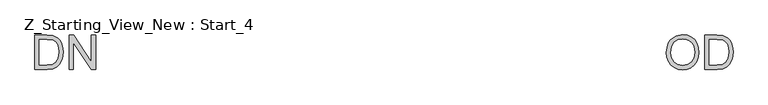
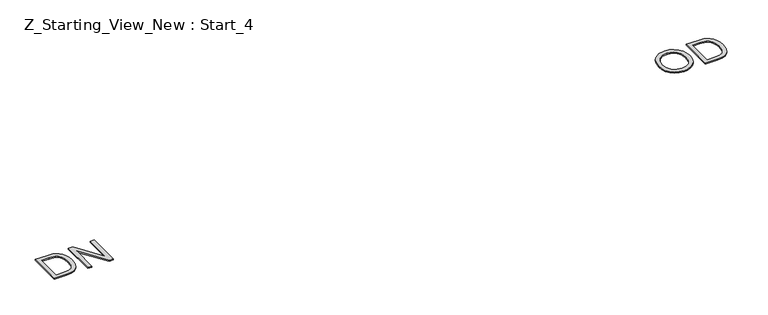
"""IFC4 building model written with IfcOpenShell, lengths in millimetres: pipe fitting geometry, Z_Starting_View_New : Start_4."""

import ifcopenshell
import ifcopenshell.guid

model = None  # the IFC model being written
_history = None  # IfcOwnerHistory: only IFC2X3 demands one
_inside = {}  # id of a spatial element -> (the spatial element, [elements in it])
_under = {}  # id of a project, library or spatial element -> (it, [spatial elements below it])
_declared = {}  # id of a project -> (the project, [libraries it declares])
_typed = {}  # id of a type object -> (the type object, [elements of that type])
_made_of = {}  # id of a material, layer set ... -> (it, [elements and type objects made of it])


def new_model(schema):
    """Start an empty IFC model of exactly this schema.

    Asked for "IFC4X3", IfcOpenShell would pick the latest addendum, in which some entities
    have other attributes; the version numbers below select the first issue.
    IFC2X3 requires an IfcOwnerHistory on every rooted entity: one is made here for all.
    """
    global model, _history
    if schema == "IFC4X3":
        model = ifcopenshell.file(schema_version=(4, 3, 0, 0))
    else:
        model = ifcopenshell.file(schema=schema)
    _inside.clear()
    _under.clear()
    _declared.clear()
    _typed.clear()
    _made_of.clear()
    _history = None
    if model.schema == "IFC2X3":
        org = make("IfcOrganization", Name="unknown")
        user = make(
            "IfcPersonAndOrganization",
            ThePerson=make("IfcPerson", FamilyName="unknown"),
            TheOrganization=org,
        )
        app = make(
            "IfcApplication",
            ApplicationDeveloper=org,
            Version="unknown",
            ApplicationFullName="unknown",
            ApplicationIdentifier="unknown",
        )
        _history = make(
            "IfcOwnerHistory",
            OwningUser=user,
            OwningApplication=app,
            ChangeAction="ADDED",
            CreationDate=0,
        )
    return model


def make(cls, **values):
    """One entity of the class cls with the attributes given. An attribute that is None is left unset."""
    return model.create_entity(
        cls, **{name: value for name, value in values.items() if value is not None}
    )


def rooted(cls, **values):
    """An entity with a GlobalId (a new one), such as an element, a storey or a relation."""
    return make(cls, GlobalId=ifcopenshell.guid.new(), OwnerHistory=_history, **values)


def si_unit(unit_type, name, prefix=None):
    """IfcSIUnit, for example si_unit("LENGTHUNIT", "METRE", prefix="MILLI")."""
    return make("IfcSIUnit", UnitType=unit_type, Prefix=prefix, Name=name)


def assignment(units):
    """IfcUnitAssignment: the units of a project."""
    return None if units is None else make("IfcUnitAssignment", Units=units)


def point(xyz):
    """IfcCartesianPoint."""
    return None if xyz is None else make("IfcCartesianPoint", Coordinates=xyz)


def direction(xyz):
    """IfcDirection."""
    return None if xyz is None else make("IfcDirection", DirectionRatios=xyz)


def frame(location, z_axis=None, x_axis=None):
    """IfcAxis2Placement3D, a coordinate frame: its origin and axes. An axis left out is left unset."""
    return make(
        "IfcAxis2Placement3D",
        Location=point(location),
        Axis=direction(z_axis),
        RefDirection=direction(x_axis),
    )


def origin():
    """The frame at (0, 0, 0) with its axes left unset."""
    return frame((0.0, 0.0, 0.0))


def origin_with_axes():
    """The frame at (0, 0, 0) with the z axis (0, 0, 1) and the x axis (1, 0, 0) written out."""
    return frame((0.0, 0.0, 0.0), z_axis=(0.0, 0.0, 1.0), x_axis=(1.0, 0.0, 0.0))


def place(relative_to, where):
    """IfcLocalPlacement: puts the frame where relative to a parent placement (None: the world)."""
    return make(
        "IfcLocalPlacement", PlacementRelTo=relative_to, RelativePlacement=where
    )


def context(
    kind, dimensions, precision=None, world=None, true_north=None, identifier=None
):
    """IfcGeometricRepresentationContext, for example the 3D "Model" context."""
    return make(
        "IfcGeometricRepresentationContext",
        ContextIdentifier=identifier,
        ContextType=kind,
        CoordinateSpaceDimension=dimensions,
        Precision=precision,
        WorldCoordinateSystem=world,
        TrueNorth=true_north,
    )


def project(units=None, contexts=None):
    """IfcProject with its units and contexts."""
    return rooted(
        "IfcProject",
        Name="project",
        RepresentationContexts=contexts,
        UnitsInContext=assignment(units),
    )


def spatial(cls, under=None, at=None, **own):
    """A site, building, storey or space (cls), placed at a placement, below another one or the project."""
    s = rooted(cls, ObjectPlacement=at, **own)
    if under is not None:
        _under.setdefault(under.id(), (under, []))[1].append(s)
    return s


def polyline(points):
    """IfcPolyline through the points."""
    return make("IfcPolyline", Points=[point(p) for p in points])


def outline(outer, holes=None, kind="AREA"):
    """IfcArbitraryClosedProfileDef: a profile drawn as a closed curve; with holes, ...WithVoids."""
    if holes is None:
        return make("IfcArbitraryClosedProfileDef", ProfileType=kind, OuterCurve=outer)
    return make(
        "IfcArbitraryProfileDefWithVoids",
        ProfileType=kind,
        OuterCurve=outer,
        InnerCurves=holes,
    )


def extrude(swept, where, along, depth):
    """IfcExtrudedAreaSolid: the profile swept, set in the frame where, extruded along a direction by depth."""
    return make(
        "IfcExtrudedAreaSolid",
        SweptArea=swept,
        Position=where,
        ExtrudedDirection=direction(along),
        Depth=depth,
    )


def shape(context_of_items, identifier, shape_type, items):
    """IfcShapeRepresentation: the items that make up one representation, for example the "Body"."""
    return make(
        "IfcShapeRepresentation",
        ContextOfItems=context_of_items,
        RepresentationIdentifier=identifier,
        RepresentationType=shape_type,
        Items=items,
    )


def source(mapping_origin, context_of_items, identifier, shape_type, items):
    """IfcRepresentationMap: a shape defined once, which mapped items show again and again."""
    return make(
        "IfcRepresentationMap",
        MappingOrigin=mapping_origin,
        MappedRepresentation=shape(context_of_items, identifier, shape_type, items),
    )


def transform(
    local_origin,
    x_axis=None,
    y_axis=None,
    z_axis=None,
    scale=None,
    scale2=None,
    scale3=None,
    uniform=True,
):
    """IfcCartesianTransformationOperator3D, or its non-uniform kind. x_axis, y_axis, z_axis: its Axis1, 2, 3."""
    if uniform:
        return make(
            "IfcCartesianTransformationOperator3D",
            Axis1=direction(x_axis),
            Axis2=direction(y_axis),
            LocalOrigin=point(local_origin),
            Scale=scale,
            Axis3=direction(z_axis),
        )
    return make(
        "IfcCartesianTransformationOperator3DnonUniform",
        Axis1=direction(x_axis),
        Axis2=direction(y_axis),
        LocalOrigin=point(local_origin),
        Scale=scale,
        Axis3=direction(z_axis),
        Scale2=scale2,
        Scale3=scale3,
    )


def mapped(mapping_source, mapping_target):
    """IfcMappedItem: shows the shape of a source again, moved by a transform."""
    return make(
        "IfcMappedItem", MappingSource=mapping_source, MappingTarget=mapping_target
    )


def made_of(thing, what):
    """Note that an element or type object is made of a material, layer set ...; save() writes the relation."""
    if what is not None:
        _made_of.setdefault(what.id(), (what, []))[1].append(thing)
    return thing


def element(
    cls,
    number,
    at=None,
    inside=None,
    cuts=None,
    type_object=None,
    material=None,
    context=None,
    identifier="Body",
    shape_type=None,
    held_by="IfcProductDefinitionShape",
    body=None,
    shapes=None,
    **own,
):
    """One element of the class cls, such as IfcWall. Its Tag is "e" and its number.

    at: its placement. inside: the storey or other place that contains it. cuts: it is an
    opening in that element (IfcRelVoidsElement). A single representation is given by context,
    identifier, shape_type and body (its items); several are given by shapes. held_by: the class
    of the entity that holds the representations. save() writes the other relations.
    """
    e = rooted(cls, Tag="e%d" % number, ObjectPlacement=at, **own)
    if body is not None:
        shapes = [shape(context, identifier, shape_type, body)]
    if shapes is not None:
        e.Representation = make(held_by, Representations=shapes)
    if inside is not None:
        _inside.setdefault(inside.id(), (inside, []))[1].append(e)
    if cuts is not None:
        rooted(
            "IfcRelVoidsElement", RelatingBuildingElement=cuts, RelatedOpeningElement=e
        )
    if type_object is not None:
        _typed.setdefault(type_object.id(), (type_object, []))[1].append(e)
    return made_of(e, material)


def aggregate(whole, parts):
    """IfcRelAggregates: a whole, such as a stair, and the parts it consists of."""
    return rooted("IfcRelAggregates", RelatingObject=whole, RelatedObjects=parts)


def save(model, path):
    """Write the relations noted so far, then the file.

    IfcRelAggregates (storeys below a building ...), IfcRelContainedInSpatialStructure (elements
    in a storey), IfcRelDefinesByType, IfcRelAssociatesMaterial and IfcRelDeclares: one each for
    every whole, place, type object, material and project.
    """
    for whole, parts in _under.values():
        aggregate(whole, parts)
    for where, things in _inside.values():
        rooted(
            "IfcRelContainedInSpatialStructure",
            RelatedElements=things,
            RelatingStructure=where,
        )
    for kind, things in _typed.values():
        rooted("IfcRelDefinesByType", RelatedObjects=things, RelatingType=kind)
    for what, things in _made_of.values():
        rooted("IfcRelAssociatesMaterial", RelatedObjects=things, RelatingMaterial=what)
    for by, libraries in _declared.values():
        rooted("IfcRelDeclares", RelatingContext=by, RelatedDefinitions=libraries)
    model.write(path)


def z_starting_view_new_start_4_e8dffedb(model_context):
    return source(origin(), model_context, "Body", "SweptSolid", [
        extrude(outline(polyline([(25286.9791991, 7519.1414001), (25292.0007883, 7552.4623118), (25298.2777748, 7566.0808434), (25307.065556, 7577.6714255), (25330.0673777, 7593.5363366), (25358.9001291, 7598.8246403), (25378.6645893, 7596.3414368), (25396.3873044, 7588.8918264), (25411.1025842, 7577.0000409), (25421.8447385, 7561.1903122), (25428.4114321, 7542.2259953), (25430.60033, 7520.8704455), (25428.296469, 7499.2297871), (25421.384886, 7479.9987558), (25410.2472586, 7464.1614359), (25395.2652643, 7452.7019118), (25377.6943005, 7445.7489421), (25358.7897645, 7443.4312855), (25338.7218017, 7445.9926639), (25320.897919, 7453.6767991), (25306.2194274, 7465.7893138), (25295.5876377, 7481.6358307), (25289.1313087, 7499.8689821), (25286.9791991, 7519.1414001)]), holes=[polyline([(25305.8147572, 7518.9574591), (25309.5809491, 7495.3854203), (25320.8795249, 7477.4235819), (25337.8618775, 7466.0560282), (25358.6793999, 7462.2668436), (25379.800425, 7466.0928164), (25396.8103687, 7477.5707346), (25408.026171, 7496.0843961), (25411.7647718, 7521.0175983), (25410.1644851, 7537.6918497), (25405.3636251, 7552.1036269), (25397.4863519, 7563.8896463), (25386.6568256, 7572.6866245), (25373.5924163, 7578.1634677), (25359.0104937, 7579.9890821), (25338.7493928, 7576.4712105), (25321.5233184, 7565.9175958), (25309.7418975, 7547.1418185), (25305.8147572, 7518.9574591)])]), origin_with_axes(), (0.0, 0.0, 1.0), 5.0),
        extrude(outline(polyline([(25456.4992224, 7445.7857303), (25456.4992224, 7596.4701955), (25508.4809483, 7596.4701955), (25535.3731222, 7594.2996917), (25557.5196183, 7583.5207493), (25567.9398758, 7572.042831), (25575.3618951, 7557.7690096), (25579.8040702, 7540.9751965), (25581.2847952, 7521.9373033), (25577.2748814, 7491.5318564), (25566.9741856, 7469.5876954), (25553.215399, 7455.9208792), (25535.2075753, 7448.3609042), (25510.9825459, 7445.7857303), (25456.4992224, 7445.7857303)]), holes=[polyline([(25475.3347806, 7464.6212884), (25508.6648893, 7464.6212884), (25532.9083128, 7467.3436152), (25546.8878286, 7475.0323489), (25558.3473528, 7493.7391483), (25562.449237, 7522.2316089), (25560.4396816, 7542.7594242), (25554.4110154, 7557.9161624), (25545.5036726, 7568.3272229), (25534.8580874, 7574.618005), (25508.1498546, 7577.6346373), (25475.3347806, 7577.6346373), (25475.3347806, 7464.6212884)])]), origin_with_axes(), (0.0, 0.0, 1.0), 5.0),
        extrude(outline(polyline([(22499.9286453, 7445.7857303), (22499.9286453, 7596.4701955), (22551.9103712, 7596.4701955), (22578.802545, 7594.2996917), (22600.9490412, 7583.5207493), (22611.3692987, 7572.042831), (22618.7913179, 7557.7690096), (22623.233493, 7540.9751965), (22624.714218, 7521.9373033), (22620.7043043, 7491.5318564), (22610.4036084, 7469.5876954), (22596.6448218, 7455.9208792), (22578.6369982, 7448.3609042), (22554.4119688, 7445.7857303), (22499.9286453, 7445.7857303)]), holes=[polyline([(22518.7642034, 7464.6212884), (22552.0943122, 7464.6212884), (22576.3377357, 7467.3436152), (22590.3172515, 7475.0323489), (22601.7767756, 7493.7391483), (22605.8786599, 7522.2316089), (22603.8691045, 7542.7594242), (22597.8404383, 7557.9161624), (22588.9330955, 7568.3272229), (22578.2875103, 7574.618005), (22551.5792774, 7577.6346373), (22518.7642034, 7577.6346373), (22518.7642034, 7464.6212884)])]), origin_with_axes(), (0.0, 0.0, 1.0), 5.0),
        extrude(outline(polyline([(22650.6131105, 7445.7857303), (22650.6131105, 7596.4701955), (22670.7730438, 7596.4701955), (22749.4997908, 7477.0924881), (22749.4997908, 7596.4701955), (22768.335349, 7596.4701955), (22768.335349, 7445.7857303), (22748.1754156, 7445.7857303), (22669.4486687, 7565.2002259), (22669.4486687, 7445.7857303), (22650.6131105, 7445.7857303)])), origin_with_axes(), (0.0, 0.0, 1.0), 5.0),
    ])


if __name__ == "__main__":
    model = new_model("IFC4")
    model_context = context("Model", 3, world=origin())
    ifc_project = project(units=[si_unit("LENGTHUNIT", "METRE", prefix="MILLI")], contexts=[model_context])
    site = spatial("IfcSite", under=ifc_project)
    building = spatial("IfcBuilding", under=site)
    placement = place(None, origin())
    z_starting_view_new_start_4_shape = z_starting_view_new_start_4_e8dffedb(model_context)
    element("IfcPipeFitting", 1, ObjectType="Z_Starting_View_New : Start_4", at=placement, inside=building, context=model_context, shape_type="MappedRepresentation", body=[
        mapped(z_starting_view_new_start_4_shape, transform((0.0, 0.0, 0.0), x_axis=(1.0, 0.0, 0.0), y_axis=(0.0, 1.0, 0.0), z_axis=(0.0, 0.0, 1.0))),
    ])
    save(model, "model.ifc")
